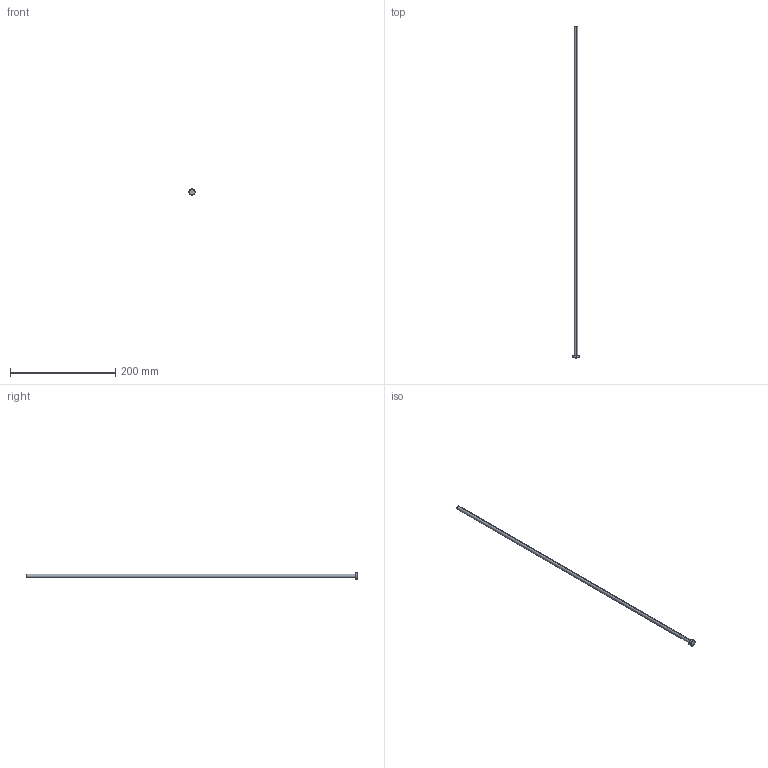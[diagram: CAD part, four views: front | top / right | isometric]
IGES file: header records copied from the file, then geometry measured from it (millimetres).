
Start section: SolidWorks IGES file using analytic representation for surfaces
Global section: file name: D:\Cleonir_particular\Matripeças\Pinos Extradores A DIN 1530\PA07,0630.IGS; native system: SolidWorks 2013; preprocessor: SolidWorks 2013; author: Cleonir; date: 130225.144946; units: millimetre
Bounding box: 12 x 630 x 12 mm (x, y, z)
Surface area: 14168.4 mm2 (no closed solid volume)
Topology: 0 solids, 0 shells, 287 faces, 2084 edges, 2084 vertices
Faces by surface type: bspline 275, revolution 12
